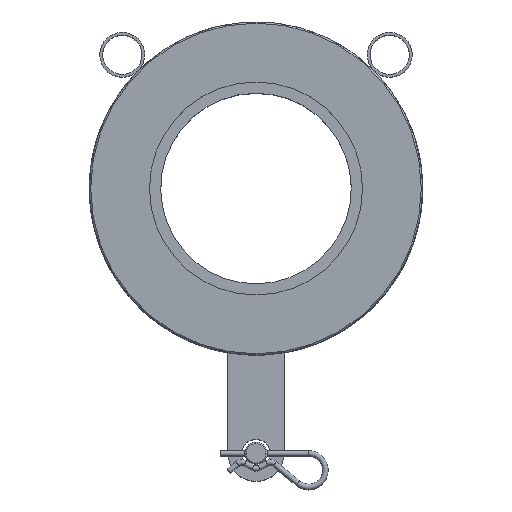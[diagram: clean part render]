
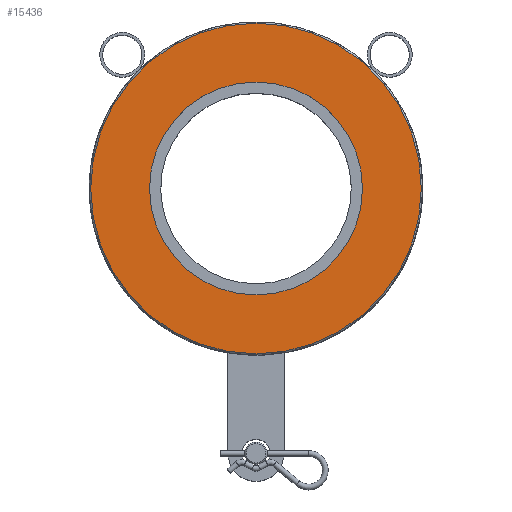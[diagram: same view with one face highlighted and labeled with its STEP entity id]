
A CAD part, top view. The second image highlights one B-rep face of the part: STEP entity #15436.
In plain terms, the highlighted planar face has unit normal (0, 0, 1).
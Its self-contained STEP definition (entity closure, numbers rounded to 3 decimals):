
#494=FACE_BOUND('',#3384,.T.);
#1638=PLANE('',#16281);
#2462=FACE_OUTER_BOUND('',#3383,.T.);
#3383=EDGE_LOOP('',(#14190));
#3384=EDGE_LOOP('',(#14191));
#5962=CIRCLE('',#16277,76.);
#5963=CIRCLE('',#16279,118.);
#7465=VERTEX_POINT('',#36348);
#7466=VERTEX_POINT('',#36352);
#9721=EDGE_CURVE('',#7465,#7465,#5962,.T.);
#9723=EDGE_CURVE('',#7466,#7466,#5963,.T.);
#14190=ORIENTED_EDGE('',*,*,#9723,.F.);
#14191=ORIENTED_EDGE('',*,*,#9721,.T.);
#15436=ADVANCED_FACE('',(#2462,#494),#1638,.T.);
#16277=AXIS2_PLACEMENT_3D('',#36349,#18955,#18956);
#16279=AXIS2_PLACEMENT_3D('',#36353,#18960,#18961);
#16281=AXIS2_PLACEMENT_3D('',#36356,#18965,#18966);
#18955=DIRECTION('center_axis',(0.,0.,
-1.));
#18956=DIRECTION('ref_axis',(-1.,0.,0.));
#18960=DIRECTION('center_axis',(0.,0.,
-1.));
#18961=DIRECTION('ref_axis',(-1.,0.,0.));
#18965=DIRECTION('center_axis',(0.,0.,
1.));
#18966=DIRECTION('ref_axis',(-1.,0.,0.));
#36348=CARTESIAN_POINT('',(76.,0.,97.));
#36349=CARTESIAN_POINT('Origin',(0.,0.,
97.));
#36352=CARTESIAN_POINT('',(118.,0.,97.));
#36353=CARTESIAN_POINT('Origin',(0.,0.,
97.));
#36356=CARTESIAN_POINT('Origin',(0.,0.,
97.));
